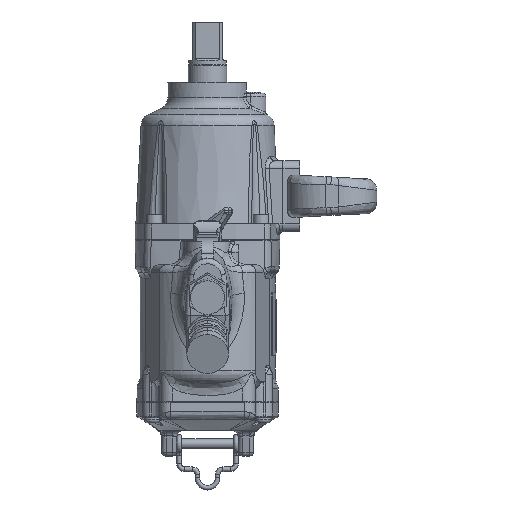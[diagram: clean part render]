
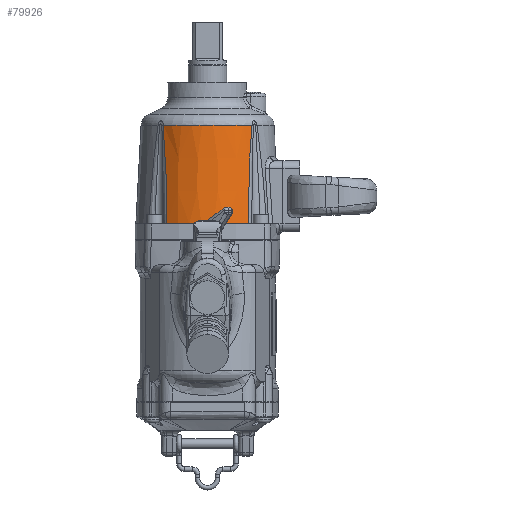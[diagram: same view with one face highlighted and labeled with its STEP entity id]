
A CAD part, front view. The second image highlights one B-rep face of the part: STEP entity #79926.
In plain terms, the highlighted conical face has half-angle 3 degrees and reference radius 46.616 mm.
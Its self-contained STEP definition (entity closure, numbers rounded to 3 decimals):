
#19438 = CARTESIAN_POINT ( 'NONE',  ( -26.493, -38.356, -92. ) ) ;
#19439 = DIRECTION ( 'NONE',  ( 1., 0., 0. ) ) ;
#19440 = DIRECTION ( 'NONE',  ( 0., 0., 1. ) ) ;
#19441 = AXIS2_PLACEMENT_3D ( 'NONE', #19447, #19440, #19439 ) ;
#19442 = CIRCLE ( 'NONE', #19441, 46.616 ) ;
#19447 = CARTESIAN_POINT ( 'NONE',  ( 0., 0., -92. ) ) ;
#19553 = CARTESIAN_POINT ( 'NONE',  ( 26.493, -38.356, -92. ) ) ;
#19949 = CARTESIAN_POINT ( 'NONE',  ( -28.867, -32.208, -27.781 ) ) ;
#19952 = DIRECTION ( 'NONE',  ( 1., 0., 0. ) ) ;
#19953 = DIRECTION ( 'NONE',  ( 0., 0., -1. ) ) ;
#19954 = CARTESIAN_POINT ( 'NONE',  ( 0., 0., -27.781 ) ) ;
#19955 = AXIS2_PLACEMENT_3D ( 'NONE', #19954, #19953, #19952 ) ;
#19956 = CIRCLE ( 'NONE', #19955, 43.251 ) ;
#20116 = DIRECTION ( 'NONE',  ( -1., 0., 0. ) ) ;
#20117 = DIRECTION ( 'NONE',  ( 0., 0., -1. ) ) ;
#20118 = AXIS2_PLACEMENT_3D ( 'NONE', #20124, #20117, #20116 ) ;
#20119 = CONICAL_SURFACE ( 'NONE', #20118, 46.616, 0.052 ) ;
#20124 = CARTESIAN_POINT ( 'NONE',  ( 0., 0., -92. ) ) ;
#20126 = FACE_OUTER_BOUND ( 'NONE', #79927, .T. ) ;
#20127 = CARTESIAN_POINT ( 'NONE',  ( 28.867, -32.208, -27.781 ) ) ;
#20143 = CARTESIAN_POINT ( 'NONE',  ( -26.493, -38.356, -92. ) ) ;
#20144 = CARTESIAN_POINT ( 'NONE',  ( -26.527, -37.991, -86.628 ) ) ;
#20145 = CARTESIAN_POINT ( 'NONE',  ( -26.58, -37.61, -81.258 ) ) ;
#20146 = CARTESIAN_POINT ( 'NONE',  ( -26.739, -36.804, -70.521 ) ) ;
#20147 = CARTESIAN_POINT ( 'NONE',  ( -26.844, -36.379, -65.155 ) ) ;
#20148 = CARTESIAN_POINT ( 'NONE',  ( -27.063, -35.687, -57.111 ) ) ;
#20149 = CARTESIAN_POINT ( 'NONE',  ( -27.146, -35.447, -54.43 ) ) ;
#20150 = CARTESIAN_POINT ( 'NONE',  ( -27.342, -34.941, -49.074 ) ) ;
#20151 = CARTESIAN_POINT ( 'NONE',  ( -27.454, -34.675, -46.398 ) ) ;
#20152 = CARTESIAN_POINT ( 'NONE',  ( -27.722, -34.101, -41.055 ) ) ;
#20153 = CARTESIAN_POINT ( 'NONE',  ( -27.877, -33.794, -38.387 ) ) ;
#20154 = CARTESIAN_POINT ( 'NONE',  ( -28.172, -33.273, -34.396 ) ) ;
#20155 = CARTESIAN_POINT ( 'NONE',  ( -28.282, -33.088, -33.068 ) ) ;
#20156 = CARTESIAN_POINT ( 'NONE',  ( -28.537, -32.684, -30.418 ) ) ;
#20157 = CARTESIAN_POINT ( 'NONE',  ( -28.681, -32.466, -29.096 ) ) ;
#20158 = CARTESIAN_POINT ( 'NONE',  ( -28.867, -32.208, -27.781 ) ) ;
#20159 = B_SPLINE_CURVE_WITH_KNOTS ( 'NONE', 3,
 ( #20212, #20211, #20210, #20209, #20208, #20207, #20206, #20205, #20204, #20203, #20202, #20201, #20200, #20199, #20198, #20197 ),
 .UNSPECIFIED., .F., .F.,
 ( 4, 2, 2, 2, 2, 2, 2, 4 ),
 ( 0., 0.016, 0.032, 0.04, 0.048, 0.057, 0.061, 0.065 ),
 .UNSPECIFIED. ) ;
#20162 = B_SPLINE_CURVE_WITH_KNOTS ( 'NONE', 3,
 ( #20158, #20157, #20156, #20155, #20154, #20153, #20152, #20151, #20150, #20149, #20148, #20147, #20146, #20145, #20144, #20143 ),
 .UNSPECIFIED., .F., .F.,
 ( 4, 2, 2, 2, 2, 2, 2, 4 ),
 ( 0., 0.004, 0.008, 0.016, 0.024, 0.032, 0.048, 0.065 ),
 .UNSPECIFIED. ) ;
#20197 = CARTESIAN_POINT ( 'NONE',  ( 28.867, -32.208, -27.781 ) ) ;
#20198 = CARTESIAN_POINT ( 'NONE',  ( 28.681, -32.467, -29.098 ) ) ;
#20199 = CARTESIAN_POINT ( 'NONE',  ( 28.537, -32.685, -30.422 ) ) ;
#20200 = CARTESIAN_POINT ( 'NONE',  ( 28.281, -33.089, -33.074 ) ) ;
#20201 = CARTESIAN_POINT ( 'NONE',  ( 28.172, -33.273, -34.403 ) ) ;
#20202 = CARTESIAN_POINT ( 'NONE',  ( 27.876, -33.795, -38.394 ) ) ;
#20203 = CARTESIAN_POINT ( 'NONE',  ( 27.721, -34.101, -41.062 ) ) ;
#20204 = CARTESIAN_POINT ( 'NONE',  ( 27.454, -34.675, -46.405 ) ) ;
#20205 = CARTESIAN_POINT ( 'NONE',  ( 27.342, -34.941, -49.079 ) ) ;
#20206 = CARTESIAN_POINT ( 'NONE',  ( 27.146, -35.447, -54.433 ) ) ;
#20207 = CARTESIAN_POINT ( 'NONE',  ( 27.063, -35.687, -57.112 ) ) ;
#20208 = CARTESIAN_POINT ( 'NONE',  ( 26.844, -36.379, -65.153 ) ) ;
#20209 = CARTESIAN_POINT ( 'NONE',  ( 26.739, -36.804, -70.52 ) ) ;
#20210 = CARTESIAN_POINT ( 'NONE',  ( 26.58, -37.61, -81.257 ) ) ;
#20211 = CARTESIAN_POINT ( 'NONE',  ( 26.527, -37.991, -86.628 ) ) ;
#20212 = CARTESIAN_POINT ( 'NONE',  ( 26.493, -38.356, -92. ) ) ;
#79477 = EDGE_CURVE ( 'NONE', #79478, #79530, #19442, .T. ) ;
#79478 = VERTEX_POINT ( 'NONE', #19438 ) ;
#79530 = VERTEX_POINT ( 'NONE', #19553 ) ;
#79833 = VERTEX_POINT ( 'NONE', #19949 ) ;
#79836 = EDGE_CURVE ( 'NONE', #79922, #79833, #19956, .T. ) ;
#79922 = VERTEX_POINT ( 'NONE', #20127 ) ;
#79926 = ADVANCED_FACE ( 'NONE', ( #20126 ), #20119, .T. ) ;
#79927 = EDGE_LOOP ( 'NONE', ( #79928, #79929, #79931, #79932 ) ) ;
#79928 = ORIENTED_EDGE ( 'NONE', *, *, #79836, .T. ) ;
#79929 = ORIENTED_EDGE ( 'NONE', *, *, #79930, .T. ) ;
#79930 = EDGE_CURVE ( 'NONE', #79833, #79478, #20162, .T. ) ;
#79931 = ORIENTED_EDGE ( 'NONE', *, *, #79477, .T. ) ;
#79932 = ORIENTED_EDGE ( 'NONE', *, *, #79933, .T. ) ;
#79933 = EDGE_CURVE ( 'NONE', #79530, #79922, #20159, .T. ) ;
